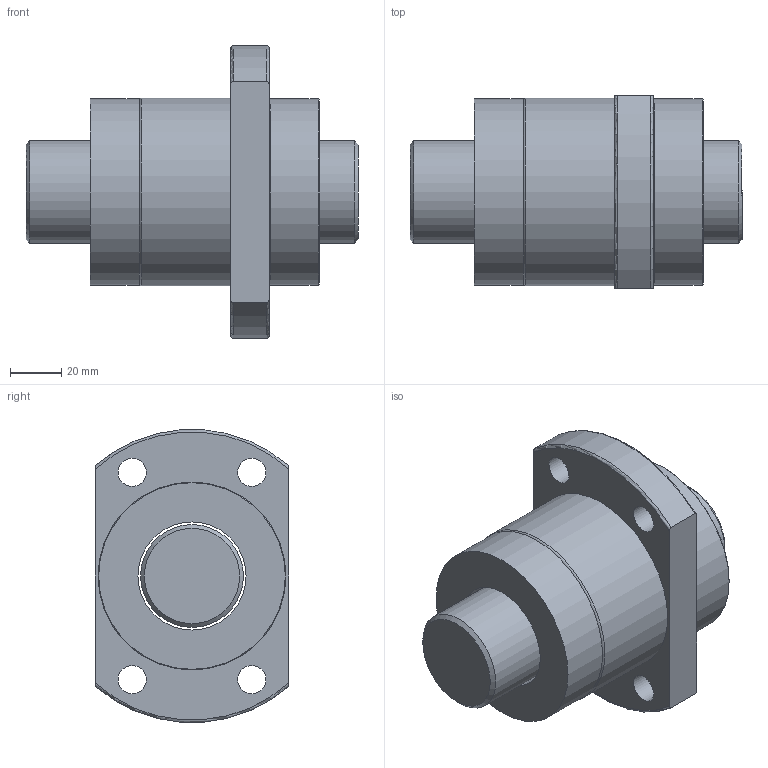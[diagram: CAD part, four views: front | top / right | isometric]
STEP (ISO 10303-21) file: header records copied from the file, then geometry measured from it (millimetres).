
FILE_DESCRIPTION(/* description */ (''),/* implementation_level */ '2;1');
FILE_NAME(/* name */ 'SFE4040',/* time_stamp */ '2007-10-26T11:58:26+08:00',/* author */ (''),/* organization */ (''),/* preprocessor_version */ 'ST-DEVELOPER v9',/* originating_system */ 'EDS PLM SOLUTIONS - UNIGRAPHICS NX 1.0',/* authorisation */ '');
FILE_SCHEMA (('CONFIG_CONTROL_DESIGN'));
Length unit declared in the file: millimetre
Products named in the file (1): FANNDA0400g7
Bounding box: 129 x 75 x 113.64 mm (x, y, z)
Volume: 458499 mm3; surface area: 77128.8 mm2
Topology: 4 solids, 4 shells, 35 faces, 70 edges, 45 vertices
Faces by surface type: cylinder 14, plane 12, torus 6, cone 3
Full cylindrical faces by diameter (mm): 11 x4, 40 x1, 42 x3, 72.5 x2, 73 x2
Entity records: 968 total; most frequent: CARTESIAN_POINT 174, DIRECTION 154, ORIENTED_EDGE 106, AXIS2_PLACEMENT_3D 73, EDGE_LOOP 68, EDGE_CURVE 53, FACE_BOUND 47, VERTEX_POINT 45
